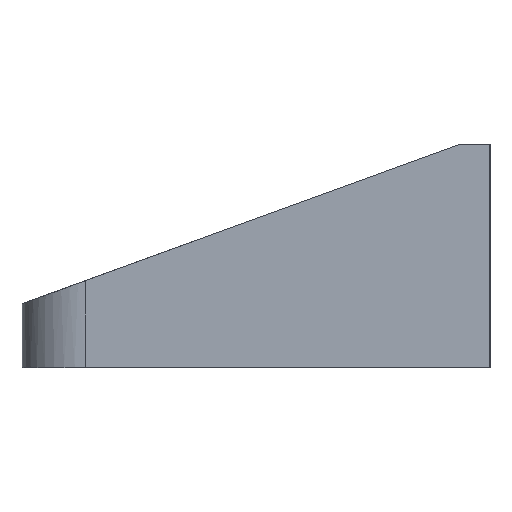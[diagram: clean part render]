
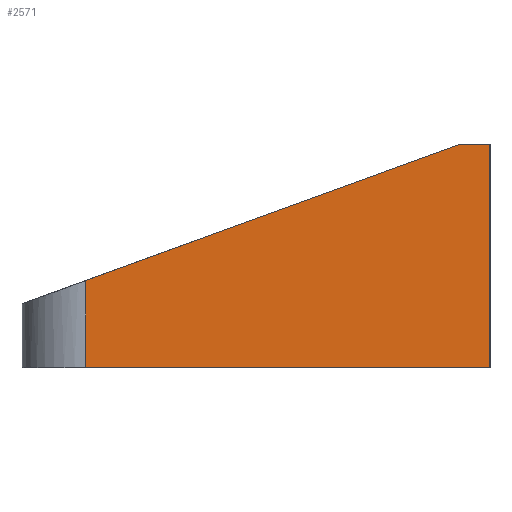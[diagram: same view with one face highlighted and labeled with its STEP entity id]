
A CAD part, front view. The second image highlights one B-rep face of the part: STEP entity #2571.
In plain terms, the highlighted planar face has unit normal (0, -1, 0).
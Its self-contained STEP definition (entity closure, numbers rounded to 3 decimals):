
#197 = CARTESIAN_POINT ( 'NONE',  ( -29.108, -70., 0. ) ) ;
#219 = ORIENTED_EDGE ( 'NONE', *, *, #2605, .F. ) ;
#255 = CARTESIAN_POINT ( 'NONE',  ( -92.5, -70., 35. ) ) ;
#303 = EDGE_LOOP ( 'NONE', ( #219, #1353, #2327, #2797, #1647 ) ) ;
#357 = VERTEX_POINT ( 'NONE', #1471 ) ;
#460 = DIRECTION ( 'NONE',  ( 0., 1., 0. ) ) ;
#477 = VECTOR ( 'NONE', #3007, 1000. ) ;
#602 = VERTEX_POINT ( 'NONE', #197 ) ;
#657 = DIRECTION ( 'NONE',  ( 0.94, 0., 0.342 ) ) ;
#729 = PLANE ( 'NONE',  #1526 ) ;
#752 = LINE ( 'NONE', #1935, #795 ) ;
#758 = FACE_OUTER_BOUND ( 'NONE', #303, .T. ) ;
#795 = VECTOR ( 'NONE', #657, 1000. ) ;
#1031 = CARTESIAN_POINT ( 'NONE',  ( -33.813, -70., 35. ) ) ;
#1316 = LINE ( 'NONE', #1744, #2107 ) ;
#1353 = ORIENTED_EDGE ( 'NONE', *, *, #3293, .F. ) ;
#1471 = CARTESIAN_POINT ( 'NONE',  ( -29.108, -70., 35. ) ) ;
#1492 = DIRECTION ( 'NONE',  ( 1., 0., 0. ) ) ;
#1514 = VERTEX_POINT ( 'NONE', #2632 ) ;
#1526 = AXIS2_PLACEMENT_3D ( 'NONE', #2498, #460, #3256 ) ;
#1538 = VECTOR ( 'NONE', #2540, 1000. ) ;
#1647 = ORIENTED_EDGE ( 'NONE', *, *, #2529, .T. ) ;
#1713 = LINE ( 'NONE', #1974, #477 ) ;
#1744 = CARTESIAN_POINT ( 'NONE',  ( -92.5, -70., 0. ) ) ;
#1883 = LINE ( 'NONE', #2545, #2866 ) ;
#1935 = CARTESIAN_POINT ( 'NONE',  ( -102.5, -70., 10. ) ) ;
#1951 = EDGE_CURVE ( 'NONE', #1514, #2134, #2200, .T. ) ;
#1974 = CARTESIAN_POINT ( 'NONE',  ( -29.108, -70., 35. ) ) ;
#2066 = DIRECTION ( 'NONE',  ( 1., 0., 0. ) ) ;
#2107 = VECTOR ( 'NONE', #1492, 1000. ) ;
#2134 = VERTEX_POINT ( 'NONE', #2584 ) ;
#2200 = LINE ( 'NONE', #255, #1538 ) ;
#2327 = ORIENTED_EDGE ( 'NONE', *, *, #3029, .F. ) ;
#2498 = CARTESIAN_POINT ( 'NONE',  ( -92.5, -70., 35. ) ) ;
#2529 = EDGE_CURVE ( 'NONE', #2134, #602, #1316, .T. ) ;
#2540 = DIRECTION ( 'NONE',  ( 0., 0., -1. ) ) ;
#2545 = CARTESIAN_POINT ( 'NONE',  ( -92.5, -70., 35. ) ) ;
#2571 = ADVANCED_FACE ( 'NONE', ( #758 ), #729, .F. ) ;
#2584 = CARTESIAN_POINT ( 'NONE',  ( -92.5, -70., 0. ) ) ;
#2605 = EDGE_CURVE ( 'NONE', #357, #602, #1713, .T. ) ;
#2632 = CARTESIAN_POINT ( 'NONE',  ( -92.5, -70., 13.64 ) ) ;
#2797 = ORIENTED_EDGE ( 'NONE', *, *, #1951, .T. ) ;
#2866 = VECTOR ( 'NONE', #2066, 1000. ) ;
#3007 = DIRECTION ( 'NONE',  ( 0., 0., -1. ) ) ;
#3029 = EDGE_CURVE ( 'NONE', #1514, #3244, #752, .T. ) ;
#3244 = VERTEX_POINT ( 'NONE', #1031 ) ;
#3256 = DIRECTION ( 'NONE',  ( 0., 0., 1. ) ) ;
#3293 = EDGE_CURVE ( 'NONE', #3244, #357, #1883, .T. ) ;
